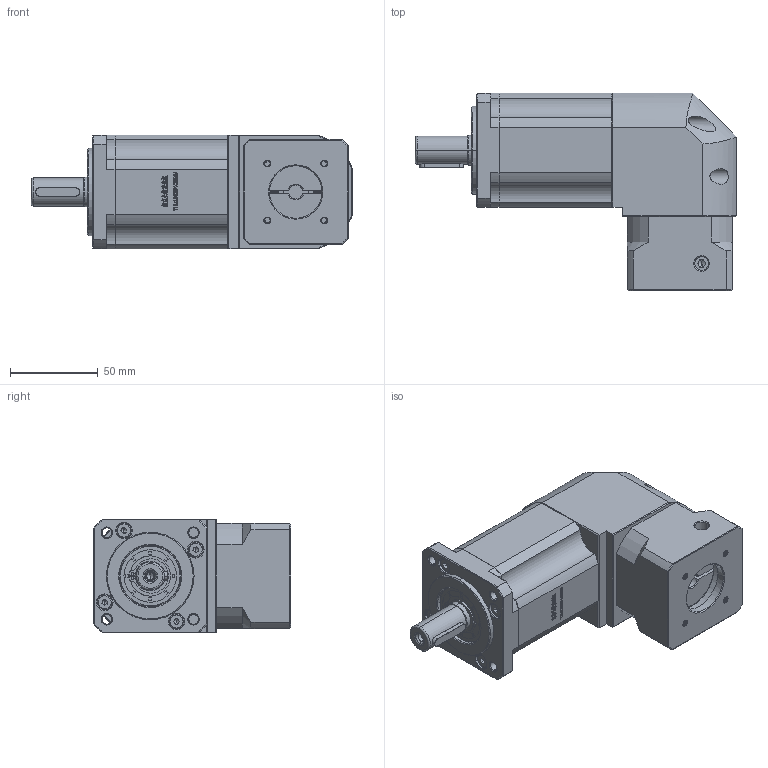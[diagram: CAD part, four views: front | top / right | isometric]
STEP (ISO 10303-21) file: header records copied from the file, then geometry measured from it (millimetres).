
FILE_DESCRIPTION (( 'STEP AP214' ), '1' );
FILE_NAME ('ZBR60-D16-L3-8-30-46-M4.STEP', '2022-04-19T08:16:54', ( '' ), ( 'Microsoft' ), 'SwSTEP 2.0', 'SolidWorks 2016', '' );
FILE_SCHEMA (( 'AUTOMOTIVE_DESIGN' ));
Length unit declared in the file: millimetre
Products named in the file (1): ZBR60-D16-L3-8-30-46-M4
Bounding box: 183.5 x 112.7 x 65 mm (x, y, z)
Volume: 655441.6 mm3; surface area: 87480.1 mm2
Topology: 5 solids, 5 shells, 2887 faces, 7847 edges, 5101 vertices
Faces by surface type: plane 1470, bspline 643, cylinder 416, cone 326, torus 32
Entity records: 176476 total; most frequent: CARTESIAN_POINT 76674, ORIENTED_EDGE 15650, DIRECTION 11682, EDGE_CURVE 7825, VERTEX_POINT 5101, LINE 5038, VECTOR 5038, AXIS2_PLACEMENT_3D 3322
